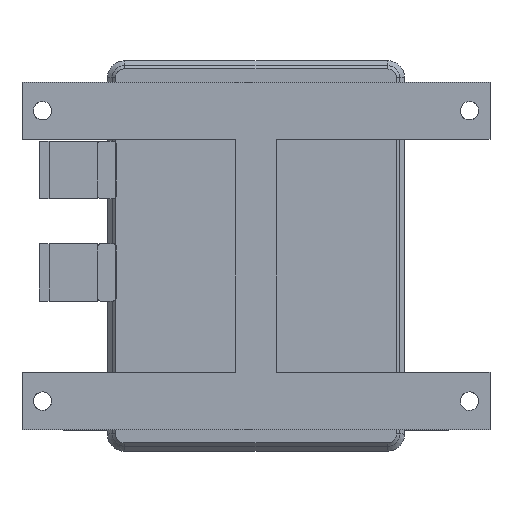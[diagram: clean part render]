
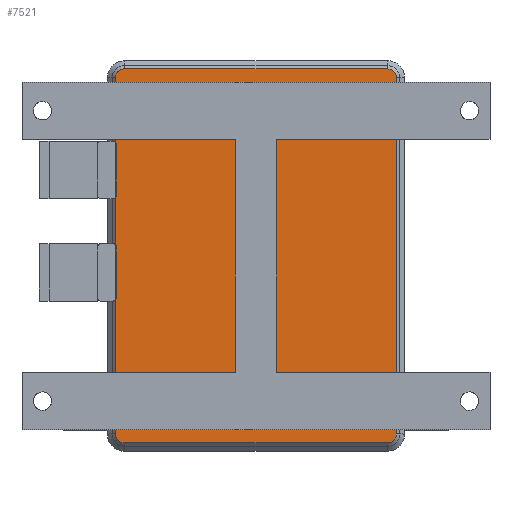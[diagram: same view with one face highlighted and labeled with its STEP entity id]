
A CAD part, top view. The second image highlights one B-rep face of the part: STEP entity #7521.
In plain terms, the highlighted planar face has unit normal (0, 0, 1).
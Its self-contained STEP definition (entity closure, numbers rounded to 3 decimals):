
#12=DIRECTION('',(1.0,0.0,0.0));
#1482=DIRECTION('',(0.0,-1.0,0.0));
#1497=DIRECTION('',(0.0,1.0,0.0));
#1520=DIRECTION('',(-1.0,0.0,0.0));
#3401=CARTESIAN_POINT('',(14.1,-35.9,38.));
#3403=VERTEX_POINT('',#3401);
#3406=VECTOR('',#1497,3.2);
#3407=CARTESIAN_POINT('',(14.1,-39.1,38.));
#3408=LINE('',#3407,#3406);
#3409=VERTEX_POINT('',#3407);
#3410=EDGE_CURVE('',#3409,#3403,#3408,.T.);
#3422=VECTOR('',#12,1.8);
#3423=LINE('',#3407,#3422);
#3424=CARTESIAN_POINT('',(15.9,-39.1,38.));
#3425=VERTEX_POINT('',#3424);
#3426=EDGE_CURVE('',#3409,#3425,#3423,.T.);
#3450=LINE('',#3424,#3406);
#3451=CARTESIAN_POINT('',(15.9,-35.9,38.));
#3452=VERTEX_POINT('',#3451);
#3453=EDGE_CURVE('',#3425,#3452,#3450,.T.);
#3468=VECTOR('',#1520,1.8);
#3469=LINE('',#3451,#3468);
#3470=EDGE_CURVE('',#3452,#3403,#3469,.T.);
#3479=CARTESIAN_POINT('',(14.1,-30.9,38.));
#3483=VERTEX_POINT('',#3479);
#3486=CARTESIAN_POINT('',(14.1,-34.1,38.));
#3487=LINE('',#3486,#3406);
#3488=VERTEX_POINT('',#3486);
#3489=EDGE_CURVE('',#3488,#3483,#3487,.T.);
#3496=VECTOR('',#1482,3.2);
#3507=LINE('',#3486,#3422);
#3508=CARTESIAN_POINT('',(15.9,-34.1,38.));
#3509=VERTEX_POINT('',#3508);
#3510=EDGE_CURVE('',#3488,#3509,#3507,.T.);
#3532=CARTESIAN_POINT('',(15.9,-30.9,38.));
#3533=LINE('',#3532,#3496);
#3534=VERTEX_POINT('',#3532);
#3535=EDGE_CURVE('',#3534,#3509,#3533,.T.);
#3547=LINE('',#3479,#3422);
#3548=EDGE_CURVE('',#3483,#3534,#3547,.T.);
#3567=CARTESIAN_POINT('',(-15.9,-35.9,38.));
#3569=VERTEX_POINT('',#3567);
#3572=CARTESIAN_POINT('',(-15.9,-39.1,38.));
#3573=LINE('',#3572,#3406);
#3574=VERTEX_POINT('',#3572);
#3575=EDGE_CURVE('',#3574,#3569,#3573,.T.);
#3592=LINE('',#3572,#3422);
#3593=CARTESIAN_POINT('',(-14.1,-39.1,38.));
#3594=VERTEX_POINT('',#3593);
#3595=EDGE_CURVE('',#3574,#3594,#3592,.T.);
#3612=CARTESIAN_POINT('',(-14.1,-35.9,38.));
#3613=LINE('',#3612,#3496);
#3614=VERTEX_POINT('',#3612);
#3615=EDGE_CURVE('',#3614,#3594,#3613,.T.);
#3627=LINE('',#3612,#3468);
#3628=EDGE_CURVE('',#3614,#3569,#3627,.T.);
#3647=CARTESIAN_POINT('',(-15.9,-30.9,38.));
#3649=VERTEX_POINT('',#3647);
#3652=LINE('',#3647,#3496);
#3653=CARTESIAN_POINT('',(-15.9,-34.1,38.));
#3654=VERTEX_POINT('',#3653);
#3655=EDGE_CURVE('',#3649,#3654,#3652,.T.);
#3667=CARTESIAN_POINT('',(-14.1,-34.1,38.));
#3668=LINE('',#3667,#3468);
#3669=VERTEX_POINT('',#3667);
#3670=EDGE_CURVE('',#3669,#3654,#3668,.T.);
#3692=LINE('',#3667,#3406);
#3693=CARTESIAN_POINT('',(-14.1,-30.9,38.));
#3694=VERTEX_POINT('',#3693);
#3695=EDGE_CURVE('',#3669,#3694,#3692,.T.);
#3707=LINE('',#3693,#3468);
#3708=EDGE_CURVE('',#3694,#3649,#3707,.T.);
#5313=CARTESIAN_POINT('',(-34.25,43.4,38.));
#5315=VERTEX_POINT('',#5313);
#5321=CARTESIAN_POINT('',(-32.05,45.6,38.));
#5323=VERTEX_POINT('',#5321);
#5326=CARTESIAN_POINT('',(-32.05,45.6,38.));
#5327=CARTESIAN_POINT('',(-32.47,45.6,38.));
#5328=CARTESIAN_POINT('',(-33.283,45.278,38.));
#5329=CARTESIAN_POINT('',(-33.928,44.633,38.));
#5330=CARTESIAN_POINT('',(-34.25,43.82,38.));
#5331=(BOUNDED_CURVE()B_SPLINE_CURVE(2,(#5313,#5330,#5329,#5328,#5327,#5326),.UNSPECIFIED.,.U.,.U.)B_SPLINE_CURVE_WITH_KNOTS((3,1,1,1,3),(0.0,0.25,0.5,0.75,1.0),.UNSPECIFIED.)CURVE()GEOMETRIC_REPRESENTATION_ITEM()RATIONAL_B_SPLINE_CURVE((1.0,0.927,0.854,0.854,0.927,1.0))REPRESENTATION_ITEM(''));
#5332=EDGE_CURVE('',#5315,#5323,#5331,.T.);
#5344=CARTESIAN_POINT('',(32.05,45.6,38.));
#5346=VERTEX_POINT('',#5344);
#5352=CARTESIAN_POINT('',(34.25,43.4,38.));
#5354=VERTEX_POINT('',#5352);
#5357=CARTESIAN_POINT('',(34.25,43.4,38.));
#5358=CARTESIAN_POINT('',(34.25,43.82,38.));
#5359=CARTESIAN_POINT('',(33.928,44.633,38.));
#5360=CARTESIAN_POINT('',(33.283,45.278,38.));
#5361=CARTESIAN_POINT('',(32.47,45.6,38.));
#5362=(BOUNDED_CURVE()B_SPLINE_CURVE(2,(#5344,#5361,#5360,#5359,#5358,#5357),.UNSPECIFIED.,.U.,.U.)B_SPLINE_CURVE_WITH_KNOTS((3,1,1,1,3),(0.0,0.25,0.5,0.75,1.0),.UNSPECIFIED.)CURVE()GEOMETRIC_REPRESENTATION_ITEM()RATIONAL_B_SPLINE_CURVE((1.0,0.927,0.854,0.854,0.927,1.0))REPRESENTATION_ITEM(''));
#5363=EDGE_CURVE('',#5346,#5354,#5362,.T.);
#5376=DIRECTION('',(1.0,0.,0.0));
#5377=VECTOR('',#5376,64.1);
#5378=LINE('',#5321,#5377);
#5379=EDGE_CURVE('',#5323,#5346,#5378,.T.);
#7450=DIRECTION('',(-0.0,0.,1.0));
#7451=CARTESIAN_POINT('',(-34.25,-45.6,38.));
#7452=AXIS2_PLACEMENT_3D('',#7451,#7450,#12);
#7453=PLANE('',#7452);
#7454=ORIENTED_EDGE('',*,*,#3426,.F.);
#7455=ORIENTED_EDGE('',*,*,#3453,.F.);
#7456=ORIENTED_EDGE('',*,*,#3470,.F.);
#7457=ORIENTED_EDGE('',*,*,#3410,.T.);
#7458=EDGE_LOOP('',(#7457,#7456,#7455,#7454));
#7459=FACE_BOUND('',#7458,.T.);
#7460=ORIENTED_EDGE('',*,*,#3510,.F.);
#7461=ORIENTED_EDGE('',*,*,#3535,.T.);
#7462=ORIENTED_EDGE('',*,*,#3548,.T.);
#7463=ORIENTED_EDGE('',*,*,#3489,.T.);
#7464=EDGE_LOOP('',(#7463,#7462,#7461,#7460));
#7465=FACE_BOUND('',#7464,.T.);
#7466=ORIENTED_EDGE('',*,*,#3595,.F.);
#7467=ORIENTED_EDGE('',*,*,#3615,.T.);
#7468=ORIENTED_EDGE('',*,*,#3628,.F.);
#7469=ORIENTED_EDGE('',*,*,#3575,.T.);
#7470=EDGE_LOOP('',(#7469,#7468,#7467,#7466));
#7471=FACE_BOUND('',#7470,.T.);
#7472=ORIENTED_EDGE('',*,*,#3655,.F.);
#7473=ORIENTED_EDGE('',*,*,#3670,.T.);
#7474=ORIENTED_EDGE('',*,*,#3695,.F.);
#7475=ORIENTED_EDGE('',*,*,#3708,.F.);
#7476=EDGE_LOOP('',(#7475,#7474,#7473,#7472));
#7477=FACE_BOUND('',#7476,.T.);
#7478=ORIENTED_EDGE('',*,*,#5332,.F.);
#7479=ORIENTED_EDGE('',*,*,#5379,.F.);
#7480=ORIENTED_EDGE('',*,*,#5363,.F.);
#7481=DIRECTION('',(0.,-1.0,0.));
#7482=VECTOR('',#7481,86.8);
#7483=LINE('',#5352,#7482);
#7484=CARTESIAN_POINT('',(34.25,-43.4,38.));
#7485=VERTEX_POINT('',#7484);
#7486=EDGE_CURVE('',#5354,#7485,#7483,.T.);
#7487=ORIENTED_EDGE('',*,*,#7486,.F.);
#7488=CARTESIAN_POINT('',(32.05,-45.6,38.));
#7489=CARTESIAN_POINT('',(32.47,-45.6,38.));
#7490=CARTESIAN_POINT('',(33.283,-45.278,38.));
#7491=CARTESIAN_POINT('',(33.928,-44.633,38.));
#7492=CARTESIAN_POINT('',(34.25,-43.82,38.));
#7493=(BOUNDED_CURVE()B_SPLINE_CURVE(2,(#7484,#7492,#7491,#7490,#7489,#7488),.UNSPECIFIED.,.U.,.U.)B_SPLINE_CURVE_WITH_KNOTS((3,1,1,1,3),(0.0,0.25,0.5,0.75,1.0),.UNSPECIFIED.)CURVE()GEOMETRIC_REPRESENTATION_ITEM()RATIONAL_B_SPLINE_CURVE((1.0,0.927,0.854,0.854,0.927,1.0))REPRESENTATION_ITEM(''));
#7494=CARTESIAN_POINT('',(32.05,-45.6,38.));
#7495=VERTEX_POINT('',#7494);
#7496=EDGE_CURVE('',#7485,#7495,#7493,.T.);
#7497=ORIENTED_EDGE('',*,*,#7496,.F.);
#7498=DIRECTION('',(-1.0,0.,0.0));
#7499=VECTOR('',#7498,64.1);
#7500=LINE('',#7494,#7499);
#7501=CARTESIAN_POINT('',(-32.05,-45.6,38.));
#7502=VERTEX_POINT('',#7501);
#7503=EDGE_CURVE('',#7495,#7502,#7500,.T.);
#7504=ORIENTED_EDGE('',*,*,#7503,.F.);
#7505=CARTESIAN_POINT('',(-34.25,-43.4,38.));
#7506=CARTESIAN_POINT('',(-34.25,-43.82,38.));
#7507=CARTESIAN_POINT('',(-33.928,-44.633,38.));
#7508=CARTESIAN_POINT('',(-33.283,-45.278,38.));
#7509=CARTESIAN_POINT('',(-32.47,-45.6,38.));
#7510=(BOUNDED_CURVE()B_SPLINE_CURVE(2,(#7501,#7509,#7508,#7507,#7506,#7505),.UNSPECIFIED.,.U.,.U.)B_SPLINE_CURVE_WITH_KNOTS((3,1,1,1,3),(0.0,0.25,0.5,0.75,1.0),.UNSPECIFIED.)CURVE()GEOMETRIC_REPRESENTATION_ITEM()RATIONAL_B_SPLINE_CURVE((1.0,0.927,0.854,0.854,0.927,1.0))REPRESENTATION_ITEM(''));
#7511=VERTEX_POINT('',#7505);
#7512=EDGE_CURVE('',#7502,#7511,#7510,.T.);
#7513=ORIENTED_EDGE('',*,*,#7512,.F.);
#7514=DIRECTION('',(0.,1.0,0.));
#7515=VECTOR('',#7514,86.8);
#7516=LINE('',#7505,#7515);
#7517=EDGE_CURVE('',#7511,#5315,#7516,.T.);
#7518=ORIENTED_EDGE('',*,*,#7517,.F.);
#7519=EDGE_LOOP('',(#7518,#7513,#7504,#7497,#7487,#7480,#7479,#7478));
#7520=FACE_BOUND('',#7519,.T.);
#7521=ADVANCED_FACE('',(#7520,#7477,#7471,#7465,#7459),#7453,.T.);
